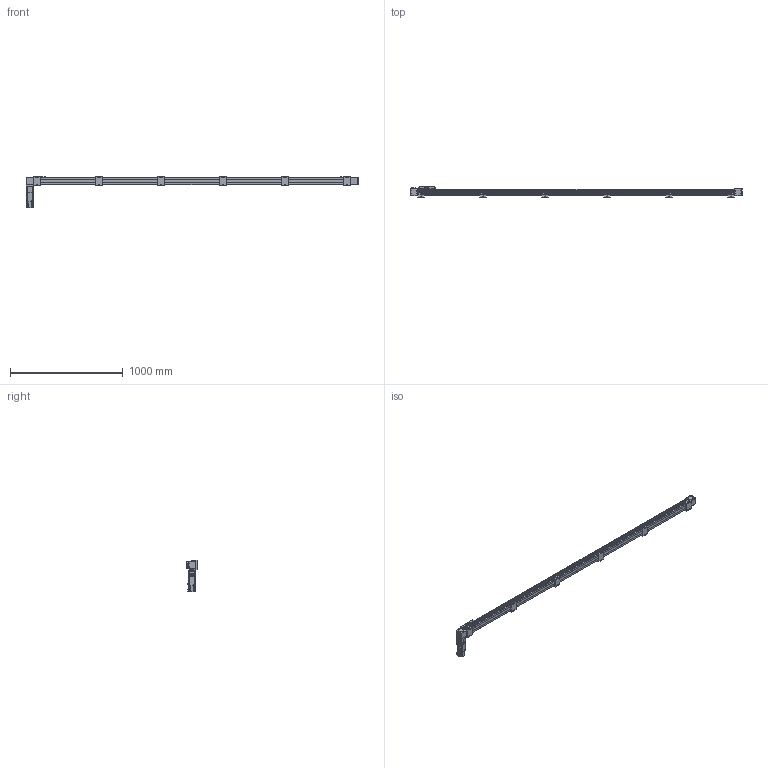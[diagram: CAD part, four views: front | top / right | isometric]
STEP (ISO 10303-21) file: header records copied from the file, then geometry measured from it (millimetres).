
FILE_DESCRIPTION(/* description */ ('STEP AP214'),/* implementation_level */ '2;1');
FILE_NAME(/* name */ 'SK60-P13-S2650-BR-T40-C1-N(0)',/* time_stamp */ '2023-04-06T04:03:13+02:00',/* author */ ('License CC BY-ND 4.0'),/* organization */ ('CADENAS'),/* preprocessor_version */ 'ST-DEVELOPER v19.3',/* originating_system */ 'PARTsolutions',/* authorisation */ ' ');
FILE_SCHEMA (('AUTOMOTIVE_DESIGN {1 0 10303 214 3 1 1}'));
Length unit declared in the file: millimetre
Products named in the file (11): SK60-P13-S2650-BR-T40-C1-N(0); PSC140-sensor; SK60-S450_seat; SK60-S450-BL-C1_slider; SK60_body3; SK60_body6; SK60-BL_body2; T40-p1; SK60_body5; SK60_body4; SK60-S2650-BR-C1_body
Assembly tree (21 placements, depth 2):
  SK60-P13-S2650-BR-T40-C1-N(0)
    PSC140-sensor  x3
    SK60-S450_seat  x6
    SK60-S450-BL-C1_slider
    SK60_body3  x3
    SK60_body6  x2
    SK60-BL_body2  x2
    T40-p1
    SK60_body5
    SK60_body4
    SK60-S2650-BR-C1_body
Bounding box: 2950 x 90 x 279.1 mm (x, y, z)
Volume: 10644793.9 mm3; surface area: 1297836.2 mm2
Topology: 21 solids, 25 shells, 1010 faces, 2501 edges, 1650 vertices
Faces by surface type: plane 640, cylinder 330, cone 38, torus 2
Full cylindrical faces by diameter (mm): 2.8 x3, 3.3 x4, 4.2 x8, 4.5 x26, 4.6 x3, 4.917 x32, 5 x2, 5.478 x4, 5.5 x35, 6.5 x12, 8 x4, 8.5 x4, 9.988 x4, 10 x24, 13.556 x1, 14 x1, 14.586 x1, 19.692 x1, 38.432 x2, 43 x1, 44 x3, 47 x2, 50 x2
Entity records: 19403 total; most frequent: DIRECTION 3300, CARTESIAN_POINT 3293, ORIENTED_EDGE 3050, EDGE_CURVE 1525, AXIS2_PLACEMENT_3D 1104, LINE 1092, VECTOR 1092, VERTEX_POINT 1077
